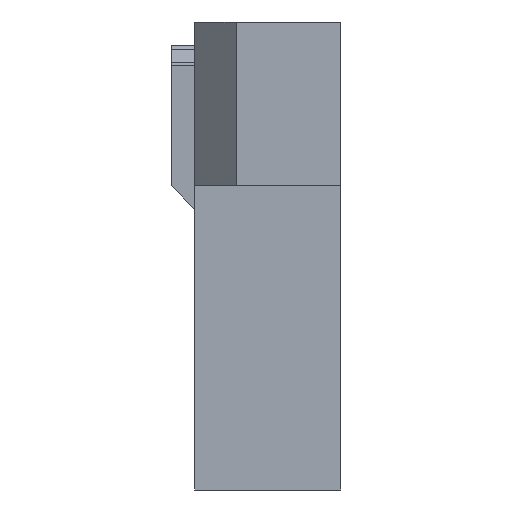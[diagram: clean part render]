
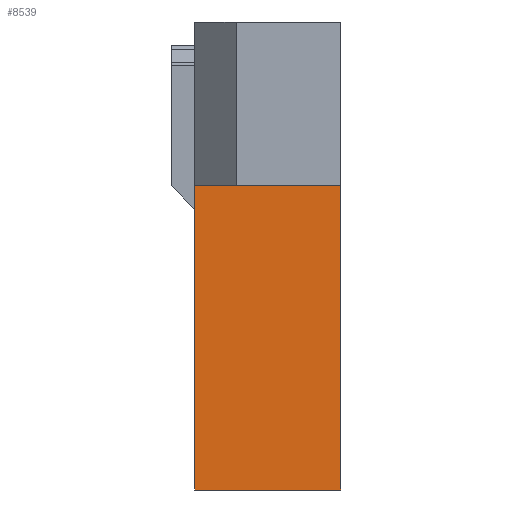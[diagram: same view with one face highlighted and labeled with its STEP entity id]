
A CAD part, left-side view. The second image highlights one B-rep face of the part: STEP entity #8539.
In plain terms, the highlighted planar face has unit normal (-1, 0, 0).
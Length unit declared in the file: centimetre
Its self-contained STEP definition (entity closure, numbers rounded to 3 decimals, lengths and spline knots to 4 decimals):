
#82=LINE($,#12046,#1266);
#115=LINE($,#12121,#1299);
#116=LINE($,#12123,#1300);
#117=LINE($,#12124,#1301);
#1266=VECTOR($,#9734,0.625);
#1299=VECTOR($,#9797,1.3);
#1300=VECTOR($,#9798,1.3);
#1301=VECTOR($,#9799,0.625);
#2424=PLANE($,#9089);
#3027=FACE_OUTER_BOUND($,#3571,.T.);
#3571=EDGE_LOOP($,(#6244,#6245,#6246,#6247));
#4196=VERTEX_POINT($,#12043);
#4197=VERTEX_POINT($,#12045);
#4224=VERTEX_POINT($,#12120);
#4225=VERTEX_POINT($,#12122);
#4953=EDGE_CURVE($,#4196,#4197,#82,.F.);
#4986=EDGE_CURVE($,#4224,#4197,#115,.F.);
#4987=EDGE_CURVE($,#4225,#4196,#116,.T.);
#4988=EDGE_CURVE($,#4224,#4225,#117,.F.);
#6244=ORIENTED_EDGE($,*,*,#4986,.T.);
#6245=ORIENTED_EDGE($,*,*,#4953,.F.);
#6246=ORIENTED_EDGE($,*,*,#4987,.F.);
#6247=ORIENTED_EDGE($,*,*,#4988,.F.);
#8539=ADVANCED_FACE($,(#3027),#2424,.F.);
#9089=AXIS2_PLACEMENT_3D($,#12119,#9795,#9796);
#9734=DIRECTION($,(0.,1.,0.));
#9795=DIRECTION('center_axis',(1.,0.,0.));
#9796=DIRECTION('ref_axis',(0.,0.,1.));
#9797=DIRECTION($,(0.,0.,-1.));
#9798=DIRECTION($,(0.,0.,1.));
#9799=DIRECTION($,(0.,-1.,0.));
#12043=CARTESIAN_POINT('',(-10.3375,22.1625,0.6125));
#12045=CARTESIAN_POINT('',(-10.3375,21.5375,0.6125));
#12046=CARTESIAN_POINT($,(-10.3375,21.85,0.6125));
#12119=CARTESIAN_POINT('Origin',(-10.3375,21.85,0.1975));
#12120=CARTESIAN_POINT('',(-10.3375,21.5375,-0.6875));
#12121=CARTESIAN_POINT($,(-10.3375,21.5375,0.1975));
#12122=CARTESIAN_POINT('',(-10.3375,22.1625,-0.6875));
#12123=CARTESIAN_POINT($,(-10.3375,22.1625,0.1975));
#12124=CARTESIAN_POINT($,(-10.3375,21.85,-0.6875));
